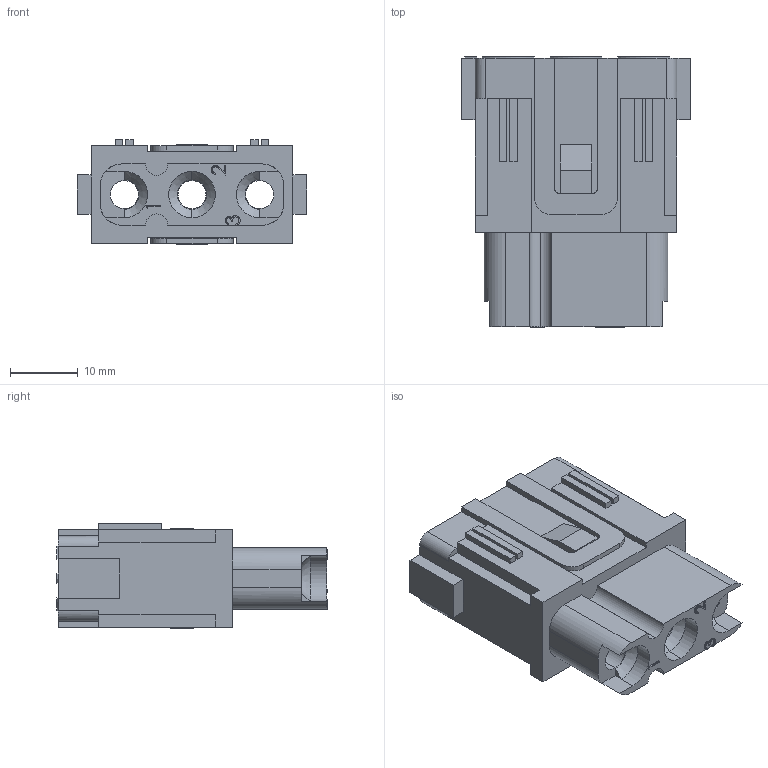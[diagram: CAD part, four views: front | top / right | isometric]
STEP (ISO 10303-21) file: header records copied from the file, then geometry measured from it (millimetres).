
FILE_DESCRIPTION (( 'STEP AP214' ), '1' );
FILE_NAME ('CX-03-4F.STEP', '2006-07-06T14:06:01', ( 'Mencom User' ), ( 'Mencom Corporation' ), 'SwSTEP 2.0', 'SolidWorks 2006104', '' );
FILE_SCHEMA (( 'AUTOMOTIVE_DESIGN' ));
Length unit declared in the file: inch
Products named in the file (1): CX-03-4F
Bounding box: 33.78 x 39.88 x 15.37 mm (x, y, z)
Volume: 11021.3 mm3; surface area: 6710.1 mm2
Topology: 1 solids, 1 shells, 283 faces, 780 edges, 512 vertices
Faces by surface type: plane 186, cylinder 53, bspline 40, cone 4
Entity records: 13306 total; most frequent: CARTESIAN_POINT 5203, ORIENTED_EDGE 1560, DIRECTION 1305, EDGE_CURVE 780, VECTOR 581, LINE 581, VERTEX_POINT 512, AXIS2_PLACEMENT_3D 362
